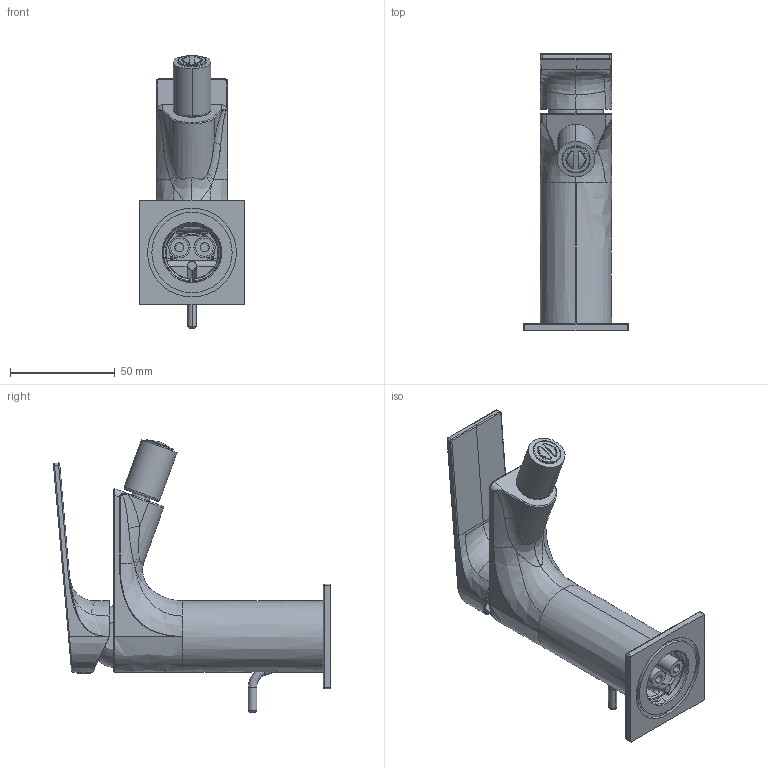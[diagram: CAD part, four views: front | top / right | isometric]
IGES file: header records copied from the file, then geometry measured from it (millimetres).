
Start section:  PTC IGES file: 78103.igs
Global section: file name: 78103.igs; native system: Creo Parametric by PTC Inc.; preprocessor: 2022014; author: carloff; organization: Unknown; date: 20240912.144032; units: millimetre
Bounding box: 50 x 132.15 x 130 mm (x, y, z)
Surface area: 53904.8 mm2 (no closed solid volume)
Topology: 0 solids, 0 shells, 624 faces, 3132 edges, 3126 vertices
Faces by surface type: revolution 357, bspline 261, extrusion 6
